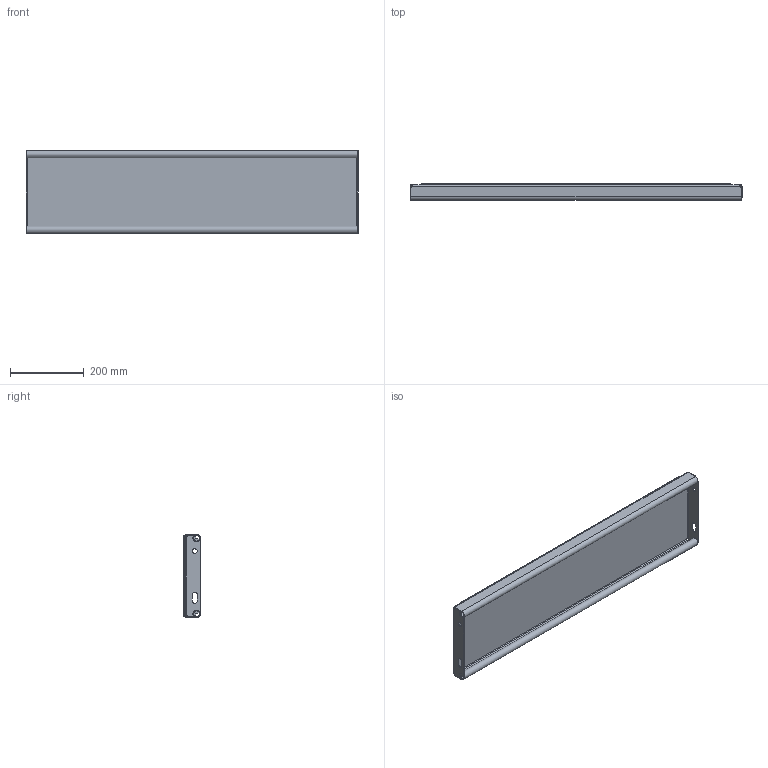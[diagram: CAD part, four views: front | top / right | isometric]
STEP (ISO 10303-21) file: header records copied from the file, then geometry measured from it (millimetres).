
FILE_DESCRIPTION (( 'STEP AP214' ), '1' );
FILE_NAME ('OPTIMO-Tread-Achil-O2-900x225x45x2-st240-F100260100_plain.STEP', '2021-03-16T07:59:16', ( '' ), ( '' ), 'SwSTEP 2.0', 'SolidWorks 2021', '' );
FILE_SCHEMA (( 'AUTOMOTIVE_DESIGN' ));
Length unit declared in the file: millimetre
Products named in the file (1): OPTIMO-Tread-Achil-O2-900x225x45x2-st240-F100260100_plain
Bounding box: 900 x 45 x 225 mm (x, y, z)
Volume: 1260451.1 mm3; surface area: 726106.6 mm2
Topology: 1 solids, 1 shells, 248 faces, 640 edges, 412 vertices
Faces by surface type: plane 173, bspline 39, cylinder 36
Entity records: 9924 total; most frequent: CARTESIAN_POINT 4092, ORIENTED_EDGE 1280, DIRECTION 1022, EDGE_CURVE 640, LINE 490, VECTOR 490, VERTEX_POINT 412, EDGE_LOOP 274
